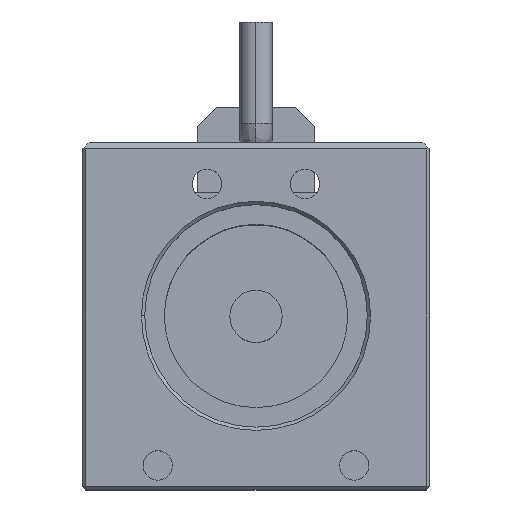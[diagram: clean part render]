
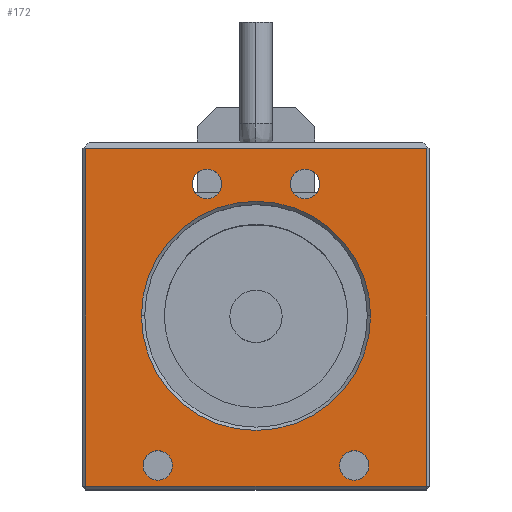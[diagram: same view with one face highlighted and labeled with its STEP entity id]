
A CAD part, top view. The second image highlights one B-rep face of the part: STEP entity #172.
In plain terms, the highlighted planar face has unit normal (0, 0, 1).
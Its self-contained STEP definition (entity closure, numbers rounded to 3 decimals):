
#143 = CIRCLE ( 'NONE', #4323, 2.25 ) ;
#146 = VERTEX_POINT ( 'NONE', #171 ) ;
#171 = CARTESIAN_POINT ( 'NONE',  ( 5.25, 20.15, 57. ) ) ;
#172 = ADVANCED_FACE ( 'NONE', ( #437, #1883, #5125, #6728, #3685, #257 ), #2120, .T. ) ;
#209 = DIRECTION ( 'NONE',  ( 0., 0., 1. ) ) ;
#237 = DIRECTION ( 'NONE',  ( -1., 0., 0. ) ) ;
#257 = FACE_OUTER_BOUND ( 'NONE', #1064, .T. ) ;
#327 = CARTESIAN_POINT ( 'NONE',  ( 26.5, -26., 57. ) ) ;
#406 = CIRCLE ( 'NONE', #1999, 2.25 ) ;
#437 = FACE_BOUND ( 'NONE', #7481, .T. ) ;
#476 = CARTESIAN_POINT ( 'NONE',  ( -26.5, 25.5, 57. ) ) ;
#525 = ORIENTED_EDGE ( 'NONE', *, *, #3633, .T. ) ;
#568 = DIRECTION ( 'NONE',  ( 0., 0., 1. ) ) ;
#602 = DIRECTION ( 'NONE',  ( 1., 0., 0. ) ) ;
#630 = VECTOR ( 'NONE', #3712, 1000. ) ;
#727 = EDGE_CURVE ( 'NONE', #815, #146, #1290, .T. ) ;
#799 = VERTEX_POINT ( 'NONE', #6453 ) ;
#815 = VERTEX_POINT ( 'NONE', #4602 ) ;
#842 = CARTESIAN_POINT ( 'NONE',  ( 7.5, 20.15, 57. ) ) ;
#899 = DIRECTION ( 'NONE',  ( 0., 0., 1. ) ) ;
#910 = EDGE_CURVE ( 'NONE', #146, #815, #4623, .T. ) ;
#941 = EDGE_CURVE ( 'NONE', #799, #6713, #1575, .T. ) ;
#962 = CIRCLE ( 'NONE', #4333, 2.25 ) ;
#1029 = CARTESIAN_POINT ( 'NONE',  ( -12.75, -22.85, 57. ) ) ;
#1064 = EDGE_LOOP ( 'NONE', ( #4713, #4740, #2741, #525 ) ) ;
#1107 = VERTEX_POINT ( 'NONE', #1968 ) ;
#1140 = CARTESIAN_POINT ( 'NONE',  ( 0., 0., 57. ) ) ;
#1178 = AXIS2_PLACEMENT_3D ( 'NONE', #1140, #5420, #1768 ) ;
#1219 = CARTESIAN_POINT ( 'NONE',  ( 26., -26., 57. ) ) ;
#1275 = CARTESIAN_POINT ( 'NONE',  ( -15., -22.85, 57. ) ) ;
#1285 = CARTESIAN_POINT ( 'NONE',  ( -5.25, 20.15, 57. ) ) ;
#1290 = CIRCLE ( 'NONE', #2164, 2.25 ) ;
#1394 = CARTESIAN_POINT ( 'NONE',  ( 17.5, 0., 57. ) ) ;
#1420 = ORIENTED_EDGE ( 'NONE', *, *, #3496, .T. ) ;
#1455 = VECTOR ( 'NONE', #4757, 1000. ) ;
#1575 = CIRCLE ( 'NONE', #3225, 2.25 ) ;
#1579 = VERTEX_POINT ( 'NONE', #1394 ) ;
#1590 = AXIS2_PLACEMENT_3D ( 'NONE', #842, #4498, #237 ) ;
#1599 = CARTESIAN_POINT ( 'NONE',  ( 0., 0., 57. ) ) ;
#1660 = VERTEX_POINT ( 'NONE', #3458 ) ;
#1685 = VERTEX_POINT ( 'NONE', #2779 ) ;
#1768 = DIRECTION ( 'NONE',  ( 1., 0., 0. ) ) ;
#1843 = LINE ( 'NONE', #476, #1455 ) ;
#1883 = FACE_BOUND ( 'NONE', #7006, .T. ) ;
#1905 = DIRECTION ( 'NONE',  ( 1., 0., 0. ) ) ;
#1950 = CARTESIAN_POINT ( 'NONE',  ( -7.5, 20.15, 57. ) ) ;
#1968 = CARTESIAN_POINT ( 'NONE',  ( 26., 25.5, 57. ) ) ;
#1999 = AXIS2_PLACEMENT_3D ( 'NONE', #1275, #5539, #1905 ) ;
#2120 = PLANE ( 'NONE',  #5952 ) ;
#2136 = VECTOR ( 'NONE', #3925, 1000. ) ;
#2164 = AXIS2_PLACEMENT_3D ( 'NONE', #7157, #2909, #6543 ) ;
#2187 = DIRECTION ( 'NONE',  ( 1., 0., 0. ) ) ;
#2223 = DIRECTION ( 'NONE',  ( 1., 0., 0. ) ) ;
#2569 = DIRECTION ( 'NONE',  ( 1., 0., 0. ) ) ;
#2696 = CARTESIAN_POINT ( 'NONE',  ( -17.25, -22.85, 57. ) ) ;
#2741 = ORIENTED_EDGE ( 'NONE', *, *, #6382, .T. ) ;
#2779 = CARTESIAN_POINT ( 'NONE',  ( -26., -26., 57. ) ) ;
#2909 = DIRECTION ( 'NONE',  ( 0., 0., 1. ) ) ;
#2965 = EDGE_CURVE ( 'NONE', #1685, #3570, #3231, .T. ) ;
#3212 = VERTEX_POINT ( 'NONE', #1285 ) ;
#3225 = AXIS2_PLACEMENT_3D ( 'NONE', #4476, #209, #3873 ) ;
#3231 = LINE ( 'NONE', #327, #7885 ) ;
#3316 = DIRECTION ( 'NONE',  ( 0., 0., 1. ) ) ;
#3458 = CARTESIAN_POINT ( 'NONE',  ( -17.5, 0., 57. ) ) ;
#3496 = EDGE_CURVE ( 'NONE', #1579, #1660, #7880, .T. ) ;
#3499 = AXIS2_PLACEMENT_3D ( 'NONE', #1599, #5846, #2223 ) ;
#3570 = VERTEX_POINT ( 'NONE', #1219 ) ;
#3594 = CIRCLE ( 'NONE', #3499, 17.5 ) ;
#3633 = EDGE_CURVE ( 'NONE', #6155, #1685, #7129, .T. ) ;
#3685 = FACE_BOUND ( 'NONE', #7399, .T. ) ;
#3712 = DIRECTION ( 'NONE',  ( 0., -1., 0. ) ) ;
#3753 = LINE ( 'NONE', #7463, #2136 ) ;
#3834 = CARTESIAN_POINT ( 'NONE',  ( -26., 25.5, 57. ) ) ;
#3851 = ORIENTED_EDGE ( 'NONE', *, *, #6982, .F. ) ;
#3873 = DIRECTION ( 'NONE',  ( -1., 0., 0. ) ) ;
#3908 = EDGE_CURVE ( 'NONE', #1660, #1579, #3594, .T. ) ;
#3919 = VERTEX_POINT ( 'NONE', #6454 ) ;
#3925 = DIRECTION ( 'NONE',  ( 0., 1., 0. ) ) ;
#3934 = CIRCLE ( 'NONE', #6212, 2.25 ) ;
#3970 = VERTEX_POINT ( 'NONE', #1029 ) ;
#4229 = CARTESIAN_POINT ( 'NONE',  ( -15., -22.85, 57. ) ) ;
#4266 = DIRECTION ( 'NONE',  ( 0., 0., 1. ) ) ;
#4323 = AXIS2_PLACEMENT_3D ( 'NONE', #7905, #4266, #602 ) ;
#4333 = AXIS2_PLACEMENT_3D ( 'NONE', #6955, #3316, #7572 ) ;
#4414 = VERTEX_POINT ( 'NONE', #2696 ) ;
#4476 = CARTESIAN_POINT ( 'NONE',  ( 15., -22.85, 57. ) ) ;
#4493 = ORIENTED_EDGE ( 'NONE', *, *, #6748, .F. ) ;
#4498 = DIRECTION ( 'NONE',  ( 0., 0., 1. ) ) ;
#4590 = ORIENTED_EDGE ( 'NONE', *, *, #727, .F. ) ;
#4602 = CARTESIAN_POINT ( 'NONE',  ( 9.75, 20.15, 57. ) ) ;
#4607 = EDGE_LOOP ( 'NONE', ( #4789, #3851 ) ) ;
#4623 = CIRCLE ( 'NONE', #1590, 2.25 ) ;
#4667 = ORIENTED_EDGE ( 'NONE', *, *, #941, .F. ) ;
#4713 = ORIENTED_EDGE ( 'NONE', *, *, #2965, .T. ) ;
#4740 = ORIENTED_EDGE ( 'NONE', *, *, #7290, .T. ) ;
#4757 = DIRECTION ( 'NONE',  ( -1., 0., 0. ) ) ;
#4789 = ORIENTED_EDGE ( 'NONE', *, *, #7087, .F. ) ;
#4794 = ORIENTED_EDGE ( 'NONE', *, *, #5161, .F. ) ;
#4849 = DIRECTION ( 'NONE',  ( 1., 0., 0. ) ) ;
#5125 = FACE_BOUND ( 'NONE', #6892, .T. ) ;
#5161 = EDGE_CURVE ( 'NONE', #3212, #3919, #143, .T. ) ;
#5420 = DIRECTION ( 'NONE',  ( 0., 0., -1. ) ) ;
#5456 = ORIENTED_EDGE ( 'NONE', *, *, #910, .F. ) ;
#5539 = DIRECTION ( 'NONE',  ( 0., 0., 1. ) ) ;
#5651 = AXIS2_PLACEMENT_3D ( 'NONE', #1950, #6187, #2569 ) ;
#5846 = DIRECTION ( 'NONE',  ( 0., 0., -1. ) ) ;
#5848 = EDGE_CURVE ( 'NONE', #3919, #3212, #6310, .T. ) ;
#5952 = AXIS2_PLACEMENT_3D ( 'NONE', #6971, #899, #6359 ) ;
#6155 = VERTEX_POINT ( 'NONE', #3834 ) ;
#6187 = DIRECTION ( 'NONE',  ( 0., 0., 1. ) ) ;
#6212 = AXIS2_PLACEMENT_3D ( 'NONE', #4229, #568, #4849 ) ;
#6310 = CIRCLE ( 'NONE', #5651, 2.25 ) ;
#6359 = DIRECTION ( 'NONE',  ( 1., 0., 0. ) ) ;
#6371 = ORIENTED_EDGE ( 'NONE', *, *, #3908, .T. ) ;
#6382 = EDGE_CURVE ( 'NONE', #1107, #6155, #1843, .T. ) ;
#6453 = CARTESIAN_POINT ( 'NONE',  ( 17.25, -22.85, 57. ) ) ;
#6454 = CARTESIAN_POINT ( 'NONE',  ( -9.75, 20.15, 57. ) ) ;
#6543 = DIRECTION ( 'NONE',  ( -1., 0., 0. ) ) ;
#6699 = ORIENTED_EDGE ( 'NONE', *, *, #5848, .F. ) ;
#6713 = VERTEX_POINT ( 'NONE', #7504 ) ;
#6728 = FACE_BOUND ( 'NONE', #4607, .T. ) ;
#6739 = CARTESIAN_POINT ( 'NONE',  ( -26., -26.5, 57. ) ) ;
#6748 = EDGE_CURVE ( 'NONE', #6713, #799, #962, .T. ) ;
#6892 = EDGE_LOOP ( 'NONE', ( #4667, #4493 ) ) ;
#6955 = CARTESIAN_POINT ( 'NONE',  ( 15., -22.85, 57. ) ) ;
#6971 = CARTESIAN_POINT ( 'NONE',  ( 0., 0., 57. ) ) ;
#6982 = EDGE_CURVE ( 'NONE', #4414, #3970, #3934, .T. ) ;
#7006 = EDGE_LOOP ( 'NONE', ( #4590, #5456 ) ) ;
#7087 = EDGE_CURVE ( 'NONE', #3970, #4414, #406, .T. ) ;
#7129 = LINE ( 'NONE', #6739, #630 ) ;
#7157 = CARTESIAN_POINT ( 'NONE',  ( 7.5, 20.15, 57. ) ) ;
#7290 = EDGE_CURVE ( 'NONE', #3570, #1107, #3753, .T. ) ;
#7399 = EDGE_LOOP ( 'NONE', ( #4794, #6699 ) ) ;
#7463 = CARTESIAN_POINT ( 'NONE',  ( 26., 25.5, 57. ) ) ;
#7481 = EDGE_LOOP ( 'NONE', ( #1420, #6371 ) ) ;
#7504 = CARTESIAN_POINT ( 'NONE',  ( 12.75, -22.85, 57. ) ) ;
#7572 = DIRECTION ( 'NONE',  ( -1., 0., 0. ) ) ;
#7880 = CIRCLE ( 'NONE', #1178, 17.5 ) ;
#7885 = VECTOR ( 'NONE', #2187, 1000. ) ;
#7905 = CARTESIAN_POINT ( 'NONE',  ( -7.5, 20.15, 57. ) ) ;
